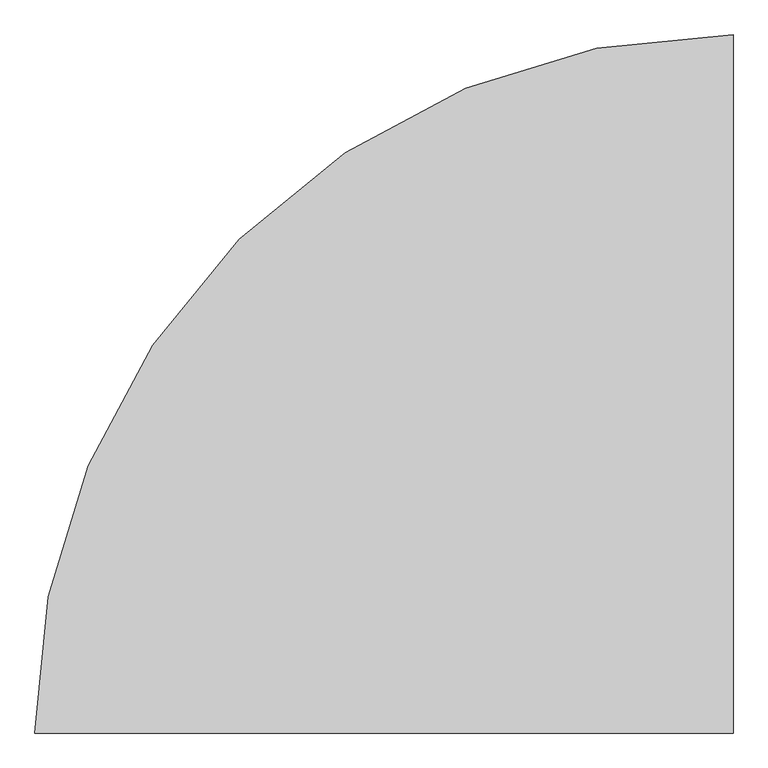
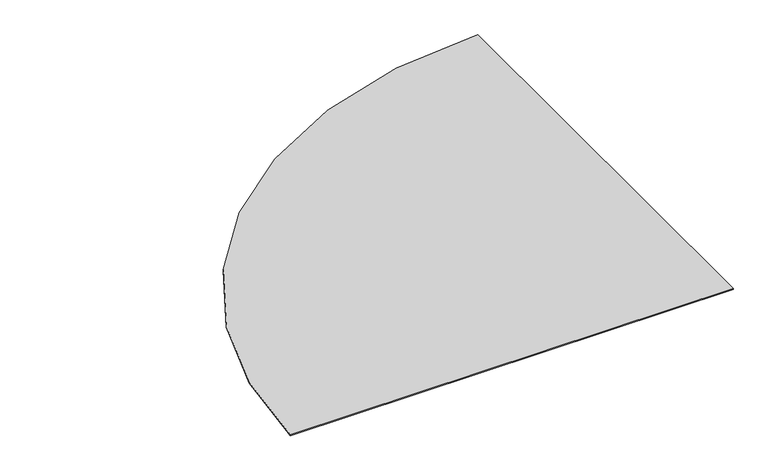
"""IFC4 building model written with IfcOpenShell, lengths in millimetres: plate geometry, 結構襯料 20 : 結構襯料 20."""

from ifc_helpers import new_model, si_unit, point, frame, frame_2d, origin, place, context, project, spatial, polyline, circle_curve, trimmed, segment, composite_curve, outline, extrude, source, transform, mapped, element, save


def plate_972203ac(model_context):
    return source(origin(), model_context, "Body", "SweptSolid", [
        extrude(outline(composite_curve([segment(polyline([(-17392.9248768, -1105.1928355), (-17392.9248768, -2595.1928355), (-18882.9248768, -2595.1928355)]), True, "CONTINUOUS"), segment(trimmed(circle_curve(frame_2d((-17392.9248768, -2595.1928355)), 1490.0), [point((-18882.9248768, -2595.1928355))], [point((-17392.9248768, -1105.1928355))], False, "CARTESIAN"), True, "CONTINUOUS")], self_intersect=False)), frame((0.0, 0.0, -3.1265766), z_axis=(0.0, 0.0, 1.0), x_axis=(1.0, 0.0, 0.0)), (0.0, 0.0, 1.0), 3.2),
    ])


if __name__ == "__main__":
    model = new_model("IFC4")
    model_context = context("Model", 3, world=origin())
    ifc_project = project(units=[si_unit("LENGTHUNIT", "METRE", prefix="MILLI")], contexts=[model_context])
    site = spatial("IfcSite", under=ifc_project)
    building = spatial("IfcBuilding", under=site)
    placement = place(None, origin())
    plate_shape = plate_972203ac(model_context)
    element("IfcPlate", 1, ObjectType="結構襯料 20 : 結構襯料 20", at=placement, inside=building, context=model_context, shape_type="MappedRepresentation", body=[
        mapped(plate_shape, transform((0.0, 0.0, 0.0), x_axis=(1.0, 0.0, 0.0), y_axis=(0.0, 1.0, 0.0), z_axis=(0.0, 0.0, 1.0))),
    ])
    save(model, "model.ifc")
